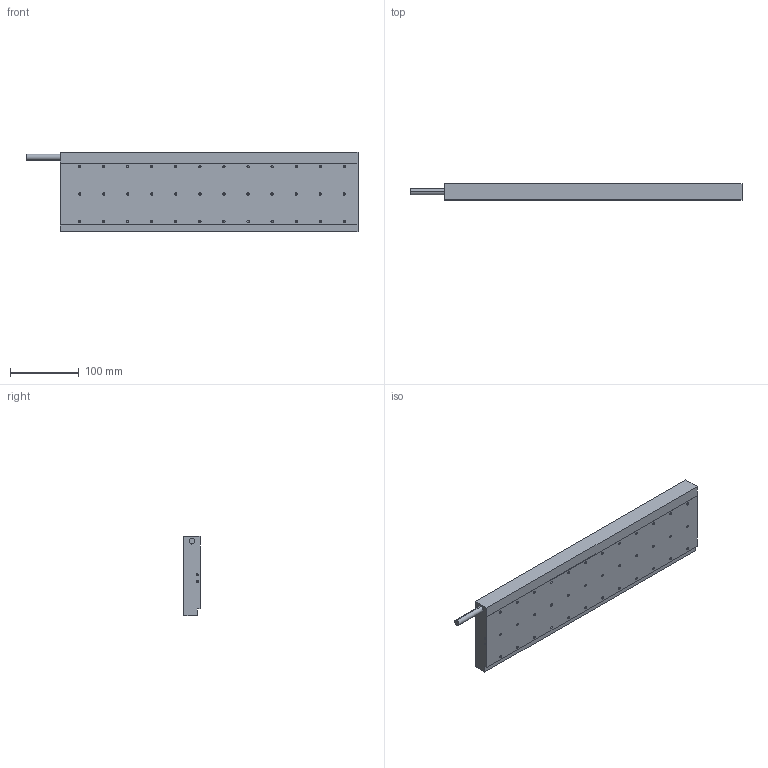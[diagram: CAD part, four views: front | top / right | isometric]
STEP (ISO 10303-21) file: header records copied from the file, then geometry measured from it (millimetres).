
FILE_DESCRIPTION (( 'STEP AP214' ), '1' );
FILE_NAME ('雄赽MK34.STEP', '2025-09-05T09:03:57', ( '' ), ( '' ), 'SwSTEP 2.0', 'SolidWorks 2016', '' );
FILE_SCHEMA (( 'AUTOMOTIVE_DESIGN' ));
Length unit declared in the file: millimetre
Products named in the file (1): 雄赽MK34
Bounding box: 483 x 23.7 x 116 mm (x, y, z)
Volume: 1172510 mm3; surface area: 130137.5 mm2
Topology: 1 solids, 1 shells, 165 faces, 410 edges, 210 vertices
Faces by surface type: cylinder 78, cone 76, plane 11
Entity records: 5267 total; most frequent: DIRECTION 822, CARTESIAN_POINT 710, ORIENTED_EDGE 668, EDGE_CURVE 334, AXIS2_PLACEMENT_3D 322, VERTEX_POINT 210, EDGE_LOOP 204, VECTOR 178
